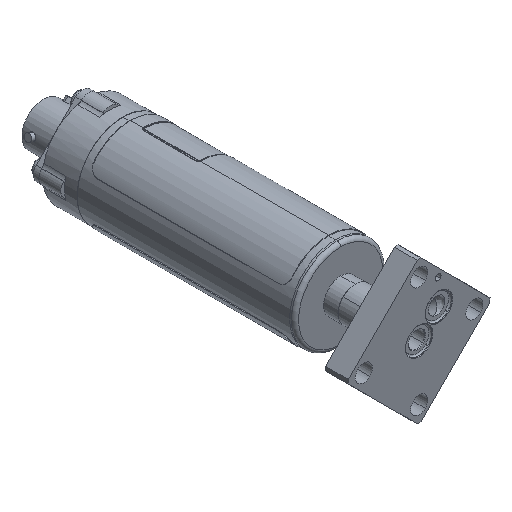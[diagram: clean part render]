
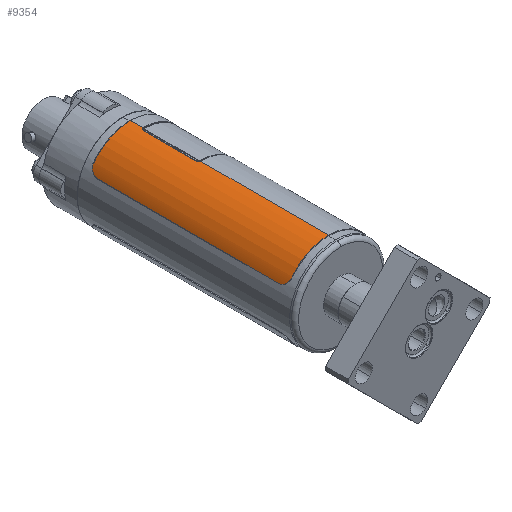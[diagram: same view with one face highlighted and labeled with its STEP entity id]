
A CAD part, isometric view. The second image highlights one B-rep face of the part: STEP entity #9354.
In plain terms, the highlighted cylindrical face has radius 12.878 mm (diameter 25.756 mm), a partial arc.
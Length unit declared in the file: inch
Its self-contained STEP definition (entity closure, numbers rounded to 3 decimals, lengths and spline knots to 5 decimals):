
#70 = CARTESIAN_POINT ( 'NONE',  ( -0.40746, 0.28938, 0.30201 ) ) ;
#179 = CARTESIAN_POINT ( 'NONE',  ( -0.39915, 2.46063, 0.31262 ) ) ;
#407 = VECTOR ( 'NONE', #9383, 39.37008 ) ;
#481 = LINE ( 'NONE', #13279, #407 ) ;
#882 = CARTESIAN_POINT ( 'NONE',  ( 0., 0., 0.507 ) ) ;
#1299 = CARTESIAN_POINT ( 'NONE',  ( 0., 2.46063, 0.507 ) ) ;
#1334 = CARTESIAN_POINT ( 'NONE',  ( -0.01987, 2.28869, 0.50661 ) ) ;
#1345 = CARTESIAN_POINT ( 'NONE',  ( -0.39915, 0.28937, 0.31262 ) ) ;
#1419 = CARTESIAN_POINT ( 'NONE',  ( 0., 2.31752, 0.507 ) ) ;
#1549 = ORIENTED_EDGE ( 'NONE', *, *, #2377, .T. ) ;
#1721 = ORIENTED_EDGE ( 'NONE', *, *, #4142, .T. ) ;
#2021 = VERTEX_POINT ( 'NONE', #7793 ) ;
#2025 = CARTESIAN_POINT ( 'NONE',  ( -0.4287, 2.44799, 0.27095 ) ) ;
#2055 = ORIENTED_EDGE ( 'NONE', *, *, #2570, .F. ) ;
#2201 = DIRECTION ( 'NONE',  ( 0., 0., -1. ) ) ;
#2377 = EDGE_CURVE ( 'NONE', #3228, #9461, #8077, .T. ) ;
#2393 = ORIENTED_EDGE ( 'NONE', *, *, #13590, .T. ) ;
#2400 = DIRECTION ( 'NONE',  ( 0., -1., 0. ) ) ;
#2546 = VERTEX_POINT ( 'NONE', #5579 ) ;
#2570 = EDGE_CURVE ( 'NONE', #2546, #9461, #11484, .T. ) ;
#2658 = DIRECTION ( 'NONE',  ( 0., -1., 0. ) ) ;
#2698 = CARTESIAN_POINT ( 'NONE',  ( -0.01886, 1.72204, 0.50665 ) ) ;
#2776 = CARTESIAN_POINT ( 'NONE',  ( -0.00571, 2.31375, 0.50697 ) ) ;
#2992 = ORIENTED_EDGE ( 'NONE', *, *, #15673, .F. ) ;
#3228 = VERTEX_POINT ( 'NONE', #15376 ) ;
#3380 = CARTESIAN_POINT ( 'NONE',  ( -0.4533, 2.36063, 0.22709 ) ) ;
#3535 = CARTESIAN_POINT ( 'NONE',  ( 0., 2.46063, 0. ) ) ;
#3869 = CARTESIAN_POINT ( 'NONE',  ( -0.4533, 0., 0.22709 ) ) ;
#3876 = CARTESIAN_POINT ( 'NONE',  ( -0.00298, 1.69993, 0.507 ) ) ;
#3879 = CARTESIAN_POINT ( 'NONE',  ( -0.44744, 0.33897, 0.23848 ) ) ;
#4123 = CARTESIAN_POINT ( 'NONE',  ( -0.43687, 0.31402, 0.25732 ) ) ;
#4142 = EDGE_CURVE ( 'NONE', #8389, #5321, #15757, .T. ) ;
#4323 = EDGE_CURVE ( 'NONE', #10691, #12580, #481, .T. ) ;
#4657 = CARTESIAN_POINT ( 'NONE',  ( -0.39915, 0.28937, 0.31262 ) ) ;
#4838 = AXIS2_PLACEMENT_3D ( 'NONE', #3535, #15206, #8783 ) ;
#4987 = CARTESIAN_POINT ( 'NONE',  ( -0.01192, 1.70814, 0.50687 ) ) ;
#5189 = B_SPLINE_CURVE_WITH_KNOTS ( 'NONE', 3,
 ( #15456, #14370, #2698, #11751, #4987, #9206, #3876, #10141 ),
 .UNSPECIFIED., .F., .F.,
 ( 4, 2, 2, 4 ),
 ( 0., 0.25, 0.5, 0.66538 ),
 .UNSPECIFIED. ) ;
#5246 = CARTESIAN_POINT ( 'NONE',  ( -0.44393, 0.32794, 0.24508 ) ) ;
#5321 = VERTEX_POINT ( 'NONE', #10003 ) ;
#5414 = CARTESIAN_POINT ( 'NONE',  ( -0.45096, 0.35717, 0.23171 ) ) ;
#5579 = CARTESIAN_POINT ( 'NONE',  ( 0., 0.28937, 0.507 ) ) ;
#5806 = EDGE_CURVE ( 'NONE', #10223, #2546, #6051, .T. ) ;
#5948 = ORIENTED_EDGE ( 'NONE', *, *, #4323, .F. ) ;
#6051 = LINE ( 'NONE', #882, #8453 ) ;
#6186 = CYLINDRICAL_SURFACE ( 'NONE', #13538, 0.507 ) ;
#6201 = B_SPLINE_CURVE_WITH_KNOTS ( 'NONE', 3,
 ( #1419, #16626, #2776, #14279, #6335, #10551, #1334, #6668 ),
 .UNSPECIFIED., .F., .F.,
 ( 4, 2, 2, 4 ),
 ( 0.3346, 0.5, 0.75, 1. ),
 .UNSPECIFIED. ) ;
#6335 = CARTESIAN_POINT ( 'NONE',  ( -0.01481, 2.30335, 0.50679 ) ) ;
#6633 = EDGE_LOOP ( 'NONE', ( #5948, #2393, #1721, #9039, #1549, #2055, #14230, #15748, #13781, #2992 ) ) ;
#6668 = CARTESIAN_POINT ( 'NONE',  ( -0.01987, 2.28346, 0.50661 ) ) ;
#6679 = CARTESIAN_POINT ( 'NONE',  ( -0.45184, 0.36345, 0.22997 ) ) ;
#6967 = CARTESIAN_POINT ( 'NONE',  ( 0., 2.31752, 0.507 ) ) ;
#7012 = CARTESIAN_POINT ( 'NONE',  ( -0.01987, 1.73228, 0.50661 ) ) ;
#7793 = CARTESIAN_POINT ( 'NONE',  ( -0.01987, 2.28346, 0.50661 ) ) ;
#8077 = B_SPLINE_CURVE_WITH_KNOTS ( 'NONE', 3,
 ( #11756, #15547, #15373, #6679, #5414, #3879, #5246, #4123, #10564, #10314, #13032, #15709, #70, #1345 ),
 .UNSPECIFIED., .F., .F.,
 ( 4, 2, 2, 2, 2, 2, 4 ),
 ( 0., 0.125, 0.25, 0.5, 0.625, 0.75, 1. ),
 .UNSPECIFIED. ) ;
#8246 = AXIS2_PLACEMENT_3D ( 'NONE', #9619, #14777, #9540 ) ;
#8389 = VERTEX_POINT ( 'NONE', #179 ) ;
#8453 = VECTOR ( 'NONE', #2400, 39.37008 ) ;
#8540 = CARTESIAN_POINT ( 'NONE',  ( -0.4486, 2.40501, 0.23624 ) ) ;
#8711 = CARTESIAN_POINT ( 'NONE',  ( -0.41847, 2.45553, 0.2863 ) ) ;
#8783 = DIRECTION ( 'NONE',  ( 0., 0., -1. ) ) ;
#8792 = CARTESIAN_POINT ( 'NONE',  ( -0.45329, 2.37393, 0.2271 ) ) ;
#8833 = LINE ( 'NONE', #12988, #14294 ) ;
#9039 = ORIENTED_EDGE ( 'NONE', *, *, #15751, .T. ) ;
#9206 = CARTESIAN_POINT ( 'NONE',  ( -0.00571, 1.702, 0.50697 ) ) ;
#9354 = ADVANCED_FACE ( 'NONE', ( #16222 ), #6186, .T. ) ;
#9383 = DIRECTION ( 'NONE',  ( 0., -1., 0. ) ) ;
#9461 = VERTEX_POINT ( 'NONE', #4657 ) ;
#9540 = DIRECTION ( 'NONE',  ( 0., 0., -1. ) ) ;
#9619 = CARTESIAN_POINT ( 'NONE',  ( 0., 0.28937, 0. ) ) ;
#9812 = CARTESIAN_POINT ( 'NONE',  ( -0.41484, 2.45745, 0.29154 ) ) ;
#9983 = CARTESIAN_POINT ( 'NONE',  ( 0., 0., 0. ) ) ;
#10003 = CARTESIAN_POINT ( 'NONE',  ( -0.4533, 2.36063, 0.22709 ) ) ;
#10141 = CARTESIAN_POINT ( 'NONE',  ( 0., 1.69823, 0.507 ) ) ;
#10223 = VERTEX_POINT ( 'NONE', #12490 ) ;
#10314 = CARTESIAN_POINT ( 'NONE',  ( -0.42844, 0.30258, 0.27114 ) ) ;
#10551 = CARTESIAN_POINT ( 'NONE',  ( -0.01886, 2.29371, 0.50665 ) ) ;
#10564 = CARTESIAN_POINT ( 'NONE',  ( -0.43426, 0.30987, 0.26172 ) ) ;
#10691 = VERTEX_POINT ( 'NONE', #1299 ) ;
#10997 = CARTESIAN_POINT ( 'NONE',  ( -0.43452, 2.44062, 0.2614 ) ) ;
#11409 = EDGE_CURVE ( 'NONE', #2021, #15520, #8833, .T. ) ;
#11484 = CIRCLE ( 'NONE', #8246, 0.507 ) ;
#11486 = DIRECTION ( 'NONE',  ( 0., -1., 0. ) ) ;
#11751 = CARTESIAN_POINT ( 'NONE',  ( -0.01481, 1.71239, 0.50679 ) ) ;
#11756 = CARTESIAN_POINT ( 'NONE',  ( -0.4533, 0.38937, 0.22709 ) ) ;
#12490 = CARTESIAN_POINT ( 'NONE',  ( 0., 1.69823, 0.507 ) ) ;
#12580 = VERTEX_POINT ( 'NONE', #6967 ) ;
#12613 = CARTESIAN_POINT ( 'NONE',  ( -0.44715, 2.41073, 0.23899 ) ) ;
#12795 = VECTOR ( 'NONE', #11486, 39.37008 ) ;
#12988 = CARTESIAN_POINT ( 'NONE',  ( -0.01987, 0., 0.50661 ) ) ;
#13032 = CARTESIAN_POINT ( 'NONE',  ( -0.42532, 0.29951, 0.27603 ) ) ;
#13279 = CARTESIAN_POINT ( 'NONE',  ( 0., 0., 0.507 ) ) ;
#13538 = AXIS2_PLACEMENT_3D ( 'NONE', #9983, #13711, #2201 ) ;
#13590 = EDGE_CURVE ( 'NONE', #10691, #8389, #14823, .T. ) ;
#13711 = DIRECTION ( 'NONE',  ( 0., -1., 0. ) ) ;
#13732 = EDGE_CURVE ( 'NONE', #15520, #10223, #5189, .T. ) ;
#13781 = ORIENTED_EDGE ( 'NONE', *, *, #11409, .F. ) ;
#13880 = CARTESIAN_POINT ( 'NONE',  ( -0.4033, 2.46062, 0.30731 ) ) ;
#14230 = ORIENTED_EDGE ( 'NONE', *, *, #5806, .F. ) ;
#14279 = CARTESIAN_POINT ( 'NONE',  ( -0.01193, 2.30761, 0.50687 ) ) ;
#14294 = VECTOR ( 'NONE', #2658, 39.37008 ) ;
#14370 = CARTESIAN_POINT ( 'NONE',  ( -0.01986, 1.727, 0.50661 ) ) ;
#14777 = DIRECTION ( 'NONE',  ( 0., -1., 0. ) ) ;
#14823 = CIRCLE ( 'NONE', #4838, 0.507 ) ;
#14889 = CARTESIAN_POINT ( 'NONE',  ( -0.44158, 2.4267, 0.24916 ) ) ;
#14964 = CARTESIAN_POINT ( 'NONE',  ( -0.44362, 2.42165, 0.24549 ) ) ;
#15130 = CARTESIAN_POINT ( 'NONE',  ( -0.39915, 2.46063, 0.31262 ) ) ;
#15206 = DIRECTION ( 'NONE',  ( 0., -1., 0. ) ) ;
#15373 = CARTESIAN_POINT ( 'NONE',  ( -0.45301, 0.37621, 0.22768 ) ) ;
#15376 = CARTESIAN_POINT ( 'NONE',  ( -0.4533, 0.38937, 0.22709 ) ) ;
#15448 = LINE ( 'NONE', #3869, #12795 ) ;
#15456 = CARTESIAN_POINT ( 'NONE',  ( -0.01987, 1.73228, 0.50661 ) ) ;
#15520 = VERTEX_POINT ( 'NONE', #7012 ) ;
#15547 = CARTESIAN_POINT ( 'NONE',  ( -0.45329, 0.38272, 0.2271 ) ) ;
#15673 = EDGE_CURVE ( 'NONE', #12580, #2021, #6201, .T. ) ;
#15709 = CARTESIAN_POINT ( 'NONE',  ( -0.41501, 0.29192, 0.29149 ) ) ;
#15748 = ORIENTED_EDGE ( 'NONE', *, *, #13732, .F. ) ;
#15751 = EDGE_CURVE ( 'NONE', #5321, #3228, #15448, .T. ) ;
#15757 = B_SPLINE_CURVE_WITH_KNOTS ( 'NONE', 3,
 ( #15130, #13880, #16136, #9812, #8711, #2025, #10997, #14889, #14964, #12613, #8540, #16476, #8792, #3380 ),
 .UNSPECIFIED., .F., .F.,
 ( 4, 2, 2, 2, 2, 2, 4 ),
 ( 0., 0.125, 0.25, 0.5, 0.625, 0.75, 1. ),
 .UNSPECIFIED. ) ;
#16136 = CARTESIAN_POINT ( 'NONE',  ( -0.40727, 2.45998, 0.30203 ) ) ;
#16222 = FACE_OUTER_BOUND ( 'NONE', #6633, .T. ) ;
#16476 = CARTESIAN_POINT ( 'NONE',  ( -0.45216, 2.38668, 0.22941 ) ) ;
#16626 = CARTESIAN_POINT ( 'NONE',  ( -0.00298, 2.31582, 0.507 ) ) ;
